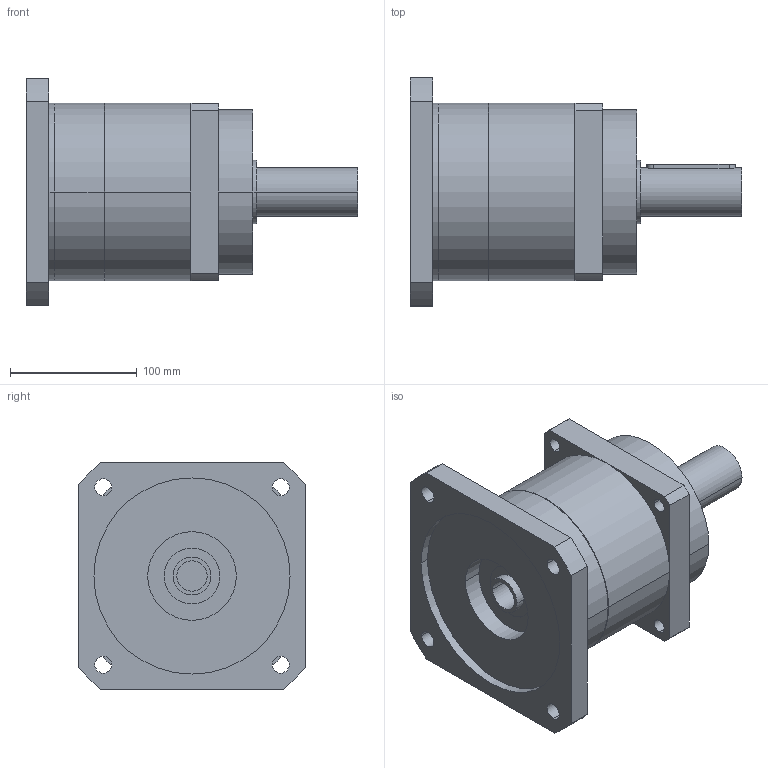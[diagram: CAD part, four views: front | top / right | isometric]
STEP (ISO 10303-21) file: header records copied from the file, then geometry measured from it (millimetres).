
FILE_DESCRIPTION(('CoCreate Modeling STEP Export'),'2;1');
FILE_NAME('GPR150_ig-3-4-5-7_38_B5_24_P11.stp','2014-08-19T16:42:29',(''),(''),'CoCreate Modeling STEP processor for AP214 (Solid Model)','CoCreate Modeling 16.00C 25-Feb-2009 (C) Parametric Technology GmbH','');
FILE_SCHEMA(('AUTOMOTIVE_DESIGN { 1 0 10303 214 1 1 1 1 }'));
Length unit declared in the file: millimetre
Products named in the file (2): GPR150_ig-3-4-5-7_38_B5_24_P11
Assembly tree (1 placements, depth 2):
  GPR150_ig-3-4-5-7_38_B5_24_P11
    GPR150_ig-3-4-5-7_38_B5_24_P11
Bounding box: 262 x 180 x 180 mm (x, y, z)
Volume: 2954461.8 mm3; surface area: 183367.3 mm2
Topology: 1 solids, 1 shells, 84 faces, 227 edges, 155 vertices
Faces by surface type: cylinder 50, plane 28, cone 6
Entity records: 2395 total; most frequent: ORIENTED_EDGE 450, CARTESIAN_POINT 442, DIRECTION 340, EDGE_CURVE 225, VERTEX_POINT 155, AXIS2_PLACEMENT_3D 125, EDGE_LOOP 112, VECTOR 90
